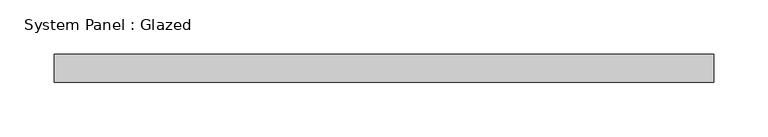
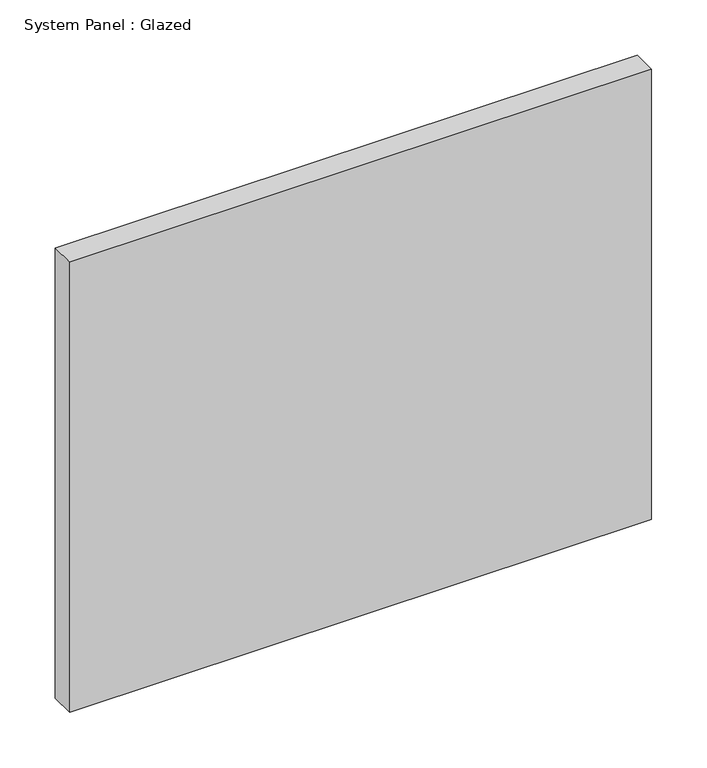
"""IFC4 building model written with IfcOpenShell, lengths in millimetres: plate geometry, System Panel : Glazed."""

from ifc_helpers import new_model, si_unit, origin, origin_with_axes, place, context, project, spatial, polyline, outline, extrude, source, transform, mapped, element, save


def system_panel_glazed_ccb3424d(model_context):
    return source(origin(), model_context, "Body", "SweptSolid", [
        extrude(outline(polyline([(302.9999409, -12.7), (-302.9999409, -12.7), (-302.9999409, 12.7), (302.9999409, 12.7), (302.9999409, -12.7)])), origin_with_axes(), (0.0, 0.0, 1.0), 495.3),
    ])


if __name__ == "__main__":
    model = new_model("IFC4")
    model_context = context("Model", 3, world=origin())
    ifc_project = project(units=[si_unit("LENGTHUNIT", "METRE", prefix="MILLI")], contexts=[model_context])
    site = spatial("IfcSite", under=ifc_project)
    building = spatial("IfcBuilding", under=site)
    placement = place(None, origin())
    system_panel_glazed_shape = system_panel_glazed_ccb3424d(model_context)
    element("IfcPlate", 1, ObjectType="System Panel : Glazed", at=placement, inside=building, context=model_context, shape_type="MappedRepresentation", body=[
        mapped(system_panel_glazed_shape, transform((0.0, 0.0, 0.0), x_axis=(1.0, 0.0, 0.0), y_axis=(0.0, 1.0, 0.0), z_axis=(0.0, 0.0, 1.0))),
    ])
    save(model, "model.ifc")
